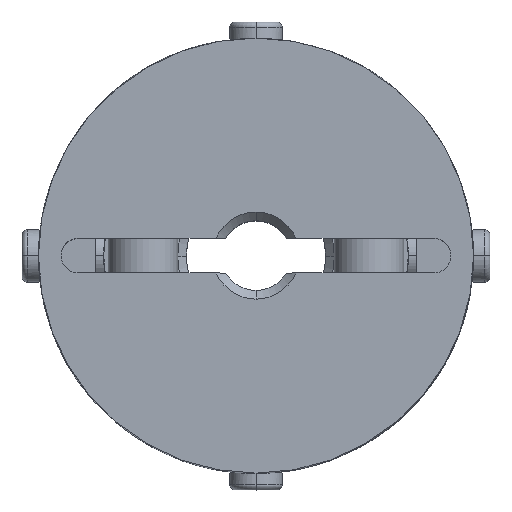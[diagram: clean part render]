
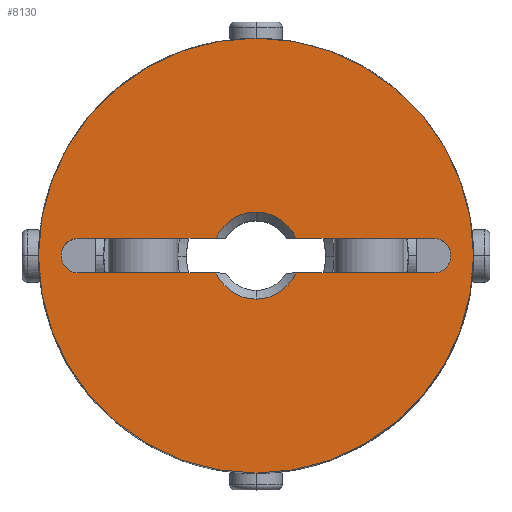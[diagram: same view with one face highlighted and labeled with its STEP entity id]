
A CAD part, top view. The second image highlights one B-rep face of the part: STEP entity #8130.
In plain terms, the highlighted planar face has unit normal (0, 0, 1).
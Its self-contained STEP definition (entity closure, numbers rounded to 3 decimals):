
#885=CARTESIAN_POINT('',(0.,12.5,13.5));
#886=VERTEX_POINT('',#885);
#893=CARTESIAN_POINT('',(0.,-12.5,13.5));
#894=VERTEX_POINT('',#893);
#895=CARTESIAN_POINT('',(0.,0.0,13.5));
#896=DIRECTION('',(0.0,0.0,-1.0));
#897=DIRECTION('',(0.0,-1.0,0.0));
#898=AXIS2_PLACEMENT_3D('',#895,#896,#897);
#899=CIRCLE('',#898,12.5);
#900=EDGE_CURVE('',#886,#894,#899,.T.);
#1153=CARTESIAN_POINT('',(10.907,0.707,13.5));
#1154=VERTEX_POINT('',#1153);
#1170=CARTESIAN_POINT('',(10.2,-1.,13.5));
#1171=VERTEX_POINT('',#1170);
#1178=CARTESIAN_POINT('',(10.2,0.,13.5));
#1179=DIRECTION('',(0.0,0.0,1.0));
#1180=DIRECTION('',(0.707,-0.707,0.0));
#1181=AXIS2_PLACEMENT_3D('',#1178,#1179,#1180);
#1182=CIRCLE('',#1181,1.0);
#1183=EDGE_CURVE('',#1171,#1154,#1182,.T.);
#1195=CARTESIAN_POINT('',(-10.907,-0.707,13.5));
#1196=VERTEX_POINT('',#1195);
#1212=CARTESIAN_POINT('',(-10.2,1.,13.5));
#1213=VERTEX_POINT('',#1212);
#1220=CARTESIAN_POINT('',(-10.2,0.,13.5));
#1221=DIRECTION('',(0.0,0.0,1.0));
#1222=DIRECTION('',(-0.707,0.707,0.0));
#1223=AXIS2_PLACEMENT_3D('',#1220,#1221,#1222);
#1224=CIRCLE('',#1223,1.0);
#1225=EDGE_CURVE('',#1213,#1196,#1224,.T.);
#1235=CARTESIAN_POINT('',(0.,2.5,13.5));
#1236=VERTEX_POINT('',#1235);
#1244=CARTESIAN_POINT('',(2.291,1.,13.5));
#1245=VERTEX_POINT('',#1244);
#1259=CARTESIAN_POINT('',(0.,0.0,13.5));
#1260=DIRECTION('',(0.0,0.0,1.0));
#1261=DIRECTION('',(0.0,1.0,0.0));
#1262=AXIS2_PLACEMENT_3D('',#1259,#1260,#1261);
#1263=CIRCLE('',#1262,2.5);
#1264=EDGE_CURVE('',#1245,#1236,#1263,.T.);
#1276=CARTESIAN_POINT('',(0.,-2.5,13.5));
#1277=VERTEX_POINT('',#1276);
#1293=CARTESIAN_POINT('',(-2.291,-1.,13.5));
#1294=VERTEX_POINT('',#1293);
#1308=CARTESIAN_POINT('',(0.,0.0,13.5));
#1309=DIRECTION('',(0.0,0.0,1.0));
#1310=DIRECTION('',(0.0,-1.0,0.0));
#1311=AXIS2_PLACEMENT_3D('',#1308,#1309,#1310);
#1312=CIRCLE('',#1311,2.5);
#1313=EDGE_CURVE('',#1294,#1277,#1312,.T.);
#7922=CARTESIAN_POINT('',(-10.2,-1.,13.5));
#7923=VERTEX_POINT('',#7922);
#7930=CARTESIAN_POINT('',(-2.291,-1.,13.5));
#7931=DIRECTION('',(-1.0,0.0,0.0));
#7932=VECTOR('',#7931,7.909);
#7933=LINE('',#7930,#7932);
#7934=EDGE_CURVE('',#1294,#7923,#7933,.T.);
#7991=CARTESIAN_POINT('',(-2.291,1.,13.5));
#7992=VERTEX_POINT('',#7991);
#8006=CARTESIAN_POINT('',(-10.2,1.,13.5));
#8007=DIRECTION('',(1.0,0.0,0.0));
#8008=VECTOR('',#8007,7.909);
#8009=LINE('',#8006,#8008);
#8010=EDGE_CURVE('',#1213,#7992,#8009,.T.);
#8027=CARTESIAN_POINT('',(2.291,-1.,13.5));
#8028=VERTEX_POINT('',#8027);
#8029=CARTESIAN_POINT('',(0.,0.0,13.5));
#8030=DIRECTION('',(0.0,0.0,1.0));
#8031=DIRECTION('',(0.0,-1.0,0.0));
#8032=AXIS2_PLACEMENT_3D('',#8029,#8030,#8031);
#8033=CIRCLE('',#8032,2.5);
#8034=EDGE_CURVE('',#1277,#8028,#8033,.T.);
#8061=CARTESIAN_POINT('',(10.2,-1.,13.5));
#8062=DIRECTION('',(-1.0,0.0,0.0));
#8063=VECTOR('',#8062,7.909);
#8064=LINE('',#8061,#8063);
#8065=EDGE_CURVE('',#1171,#8028,#8064,.T.);
#8076=CARTESIAN_POINT('',(0.,-1.136,13.5));
#8077=DIRECTION('',(0.0,0.0,1.0));
#8078=DIRECTION('',(0.0,-1.0,0.0));
#8079=AXIS2_PLACEMENT_3D('',#8076,#8077,#8078);
#8080=PLANE('',#8079);
#8081=CARTESIAN_POINT('',(0.,0.0,13.5));
#8082=DIRECTION('',(0.0,0.0,-1.0));
#8083=DIRECTION('',(0.0,-1.0,0.0));
#8084=AXIS2_PLACEMENT_3D('',#8081,#8082,#8083);
#8085=CIRCLE('',#8084,12.5);
#8086=EDGE_CURVE('',#894,#886,#8085,.T.);
#8087=ORIENTED_EDGE('',*,*,#8086,.F.);
#8088=ORIENTED_EDGE('',*,*,#900,.F.);
#8089=EDGE_LOOP('',(#8087,#8088));
#8090=FACE_OUTER_BOUND('',#8089,.T.);
#8091=ORIENTED_EDGE('',*,*,#1313,.F.);
#8092=ORIENTED_EDGE('',*,*,#7934,.T.);
#8093=CARTESIAN_POINT('',(-10.2,0.,13.5));
#8094=DIRECTION('',(0.0,0.0,1.0));
#8095=DIRECTION('',(-0.707,0.707,0.0));
#8096=AXIS2_PLACEMENT_3D('',#8093,#8094,#8095);
#8097=CIRCLE('',#8096,1.0);
#8098=EDGE_CURVE('',#1196,#7923,#8097,.T.);
#8099=ORIENTED_EDGE('',*,*,#8098,.F.);
#8100=ORIENTED_EDGE('',*,*,#1225,.F.);
#8101=ORIENTED_EDGE('',*,*,#8010,.T.);
#8102=CARTESIAN_POINT('',(0.,0.0,13.5));
#8103=DIRECTION('',(0.0,0.0,1.0));
#8104=DIRECTION('',(0.0,1.0,0.0));
#8105=AXIS2_PLACEMENT_3D('',#8102,#8103,#8104);
#8106=CIRCLE('',#8105,2.5);
#8107=EDGE_CURVE('',#1236,#7992,#8106,.T.);
#8108=ORIENTED_EDGE('',*,*,#8107,.F.);
#8109=ORIENTED_EDGE('',*,*,#1264,.F.);
#8110=CARTESIAN_POINT('',(10.2,1.,13.5));
#8111=VERTEX_POINT('',#8110);
#8112=CARTESIAN_POINT('',(2.291,1.,13.5));
#8113=DIRECTION('',(1.0,0.0,0.0));
#8114=VECTOR('',#8113,7.909);
#8115=LINE('',#8112,#8114);
#8116=EDGE_CURVE('',#1245,#8111,#8115,.T.);
#8117=ORIENTED_EDGE('',*,*,#8116,.T.);
#8118=CARTESIAN_POINT('',(10.2,0.,13.5));
#8119=DIRECTION('',(0.0,0.0,1.0));
#8120=DIRECTION('',(0.707,-0.707,0.0));
#8121=AXIS2_PLACEMENT_3D('',#8118,#8119,#8120);
#8122=CIRCLE('',#8121,1.0);
#8123=EDGE_CURVE('',#1154,#8111,#8122,.T.);
#8124=ORIENTED_EDGE('',*,*,#8123,.F.);
#8125=ORIENTED_EDGE('',*,*,#1183,.F.);
#8126=ORIENTED_EDGE('',*,*,#8065,.T.);
#8127=ORIENTED_EDGE('',*,*,#8034,.F.);
#8128=EDGE_LOOP('',(#8091,#8092,#8099,#8100,#8101,#8108,#8109,#8117,#8124,#8125,#8126,#8127));
#8129=FACE_BOUND('',#8128,.T.);
#8130=ADVANCED_FACE('',(#8090,#8129),#8080,.T.);
